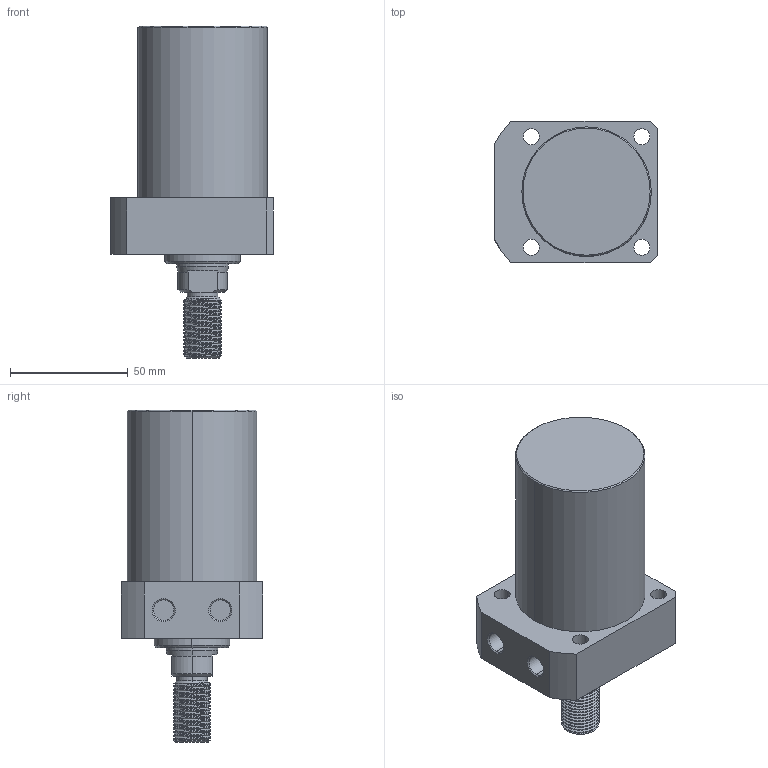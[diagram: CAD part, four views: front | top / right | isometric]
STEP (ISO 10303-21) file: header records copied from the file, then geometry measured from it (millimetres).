
FILE_DESCRIPTION (( 'STEP AP214' ), '1' );
FILE_NAME ('CLLR-055CT-060.STEP', '2020-01-09T00:34:48', ( 'Windows' ), ( 'Microsoft' ), 'SwSTEP 2.0', 'SolidWorks 2015', '' );
FILE_SCHEMA (( 'AUTOMOTIVE_DESIGN' ));
Length unit declared in the file: millimetre
Products named in the file (1): CLLR-055CT-060
Bounding box: 69 x 60 x 141 mm (x, y, z)
Volume: 277864.6 mm3; surface area: 32500.4 mm2
Topology: 1 solids, 1 shells, 101 faces, 259 edges, 168 vertices
Faces by surface type: cylinder 62, plane 20, cone 17, bspline 2
Entity records: 5005 total; most frequent: CARTESIAN_POINT 2661, ORIENTED_EDGE 518, DIRECTION 456, EDGE_CURVE 259, AXIS2_PLACEMENT_3D 178, VERTEX_POINT 168, EDGE_LOOP 117, ADVANCED_FACE 101
